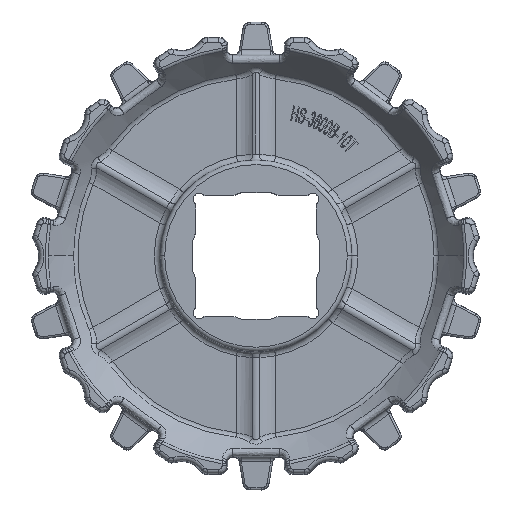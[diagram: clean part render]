
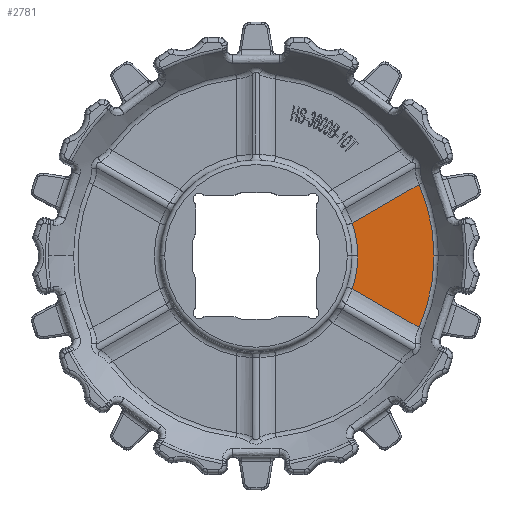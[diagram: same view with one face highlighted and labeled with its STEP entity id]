
A CAD part, top view. The second image highlights one B-rep face of the part: STEP entity #2781.
In plain terms, the highlighted planar face has unit normal (0, 0, 1).
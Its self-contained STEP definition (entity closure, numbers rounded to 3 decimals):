
#1378=FACE_OUTER_BOUND('',#6814,.T.);
#2781=ADVANCED_FACE('',(#1378),#4185,.F.);
#4185=PLANE('',#22713);
#4523=CIRCLE('',#22708,34.14);
#4524=CIRCLE('',#22710,34.14);
#4525=CIRCLE('',#22711,59.744);
#4526=CIRCLE('',#22712,59.744);
#6814=EDGE_LOOP('',(#8431,#8432,#8433,#8434,#8435,#8436));
#8431=ORIENTED_EDGE('',*,*,#17241,.T.);
#8432=ORIENTED_EDGE('',*,*,#17240,.T.);
#8433=ORIENTED_EDGE('',*,*,#17242,.T.);
#8434=ORIENTED_EDGE('',*,*,#17243,.T.);
#8435=ORIENTED_EDGE('',*,*,#17244,.T.);
#8436=ORIENTED_EDGE('',*,*,#17245,.T.);
#15219=VERTEX_POINT('',#28078);
#15220=VERTEX_POINT('',#28089);
#15221=VERTEX_POINT('',#28093);
#15222=VERTEX_POINT('',#28095);
#15223=VERTEX_POINT('',#28097);
#15224=VERTEX_POINT('',#28099);
#17240=EDGE_CURVE('',#15219,#15220,#4523,.T.);
#17241=EDGE_CURVE('',#15221,#15219,#4524,.T.);
#17242=EDGE_CURVE('',#15220,#15222,#20511,.T.);
#17243=EDGE_CURVE('',#15222,#15223,#4525,.T.);
#17244=EDGE_CURVE('',#15223,#15224,#4526,.T.);
#17245=EDGE_CURVE('',#15224,#15221,#20512,.T.);
#20511=LINE('',#28094,#21568);
#20512=LINE('',#28100,#21569);
#21568=VECTOR('',#24024,1.);
#21569=VECTOR('',#24029,1.);
#22708=AXIS2_PLACEMENT_3D('',#28090,#24018,#24019);
#22710=AXIS2_PLACEMENT_3D('',#28092,#24022,#24023);
#22711=AXIS2_PLACEMENT_3D('',#28096,#24025,#24026);
#22712=AXIS2_PLACEMENT_3D('',#28098,#24027,#24028);
#22713=AXIS2_PLACEMENT_3D('',#28101,#24030,#24031);
#24018=DIRECTION('',(0.,0.,-1.));
#24019=DIRECTION('',(1.,0.,0.));
#24022=DIRECTION('',(0.,0.,-1.));
#24023=DIRECTION('',(0.946,0.323,0.));
#24024=DIRECTION('',(0.866,-0.5,0.));
#24025=DIRECTION('',(0.,0.,1.));
#24026=DIRECTION('',(0.916,-0.401,0.));
#24027=DIRECTION('',(0.,0.,1.));
#24028=DIRECTION('',(1.,0.,0.));
#24029=DIRECTION('',(-0.866,-0.5,0.));
#24030=DIRECTION('',(0.,0.,-1.));
#24031=DIRECTION('',(-1.,0.,0.));
#28078=CARTESIAN_POINT('',(34.14,0.,3.));
#28089=CARTESIAN_POINT('',(32.305,-11.042,3.));
#28090=CARTESIAN_POINT('',(0.,0.,3.));
#28092=CARTESIAN_POINT('',(0.,0.,3.));
#28093=CARTESIAN_POINT('',(32.305,11.042,3.));
#28094=CARTESIAN_POINT('',(32.305,-11.042,3.));
#28095=CARTESIAN_POINT('',(54.719,-23.983,3.));
#28096=CARTESIAN_POINT('',(0.,0.,3.));
#28097=CARTESIAN_POINT('',(59.744,0.,3.));
#28098=CARTESIAN_POINT('',(0.,0.,3.));
#28099=CARTESIAN_POINT('',(54.719,23.983,3.));
#28100=CARTESIAN_POINT('',(54.719,23.983,3.));
#28101=CARTESIAN_POINT('',(9.932,30.567,3.));
